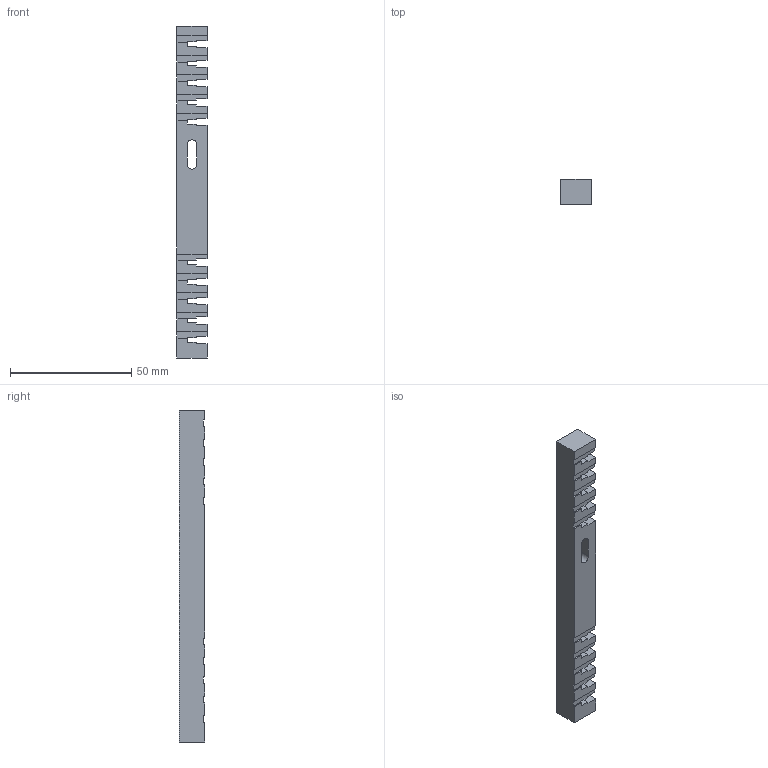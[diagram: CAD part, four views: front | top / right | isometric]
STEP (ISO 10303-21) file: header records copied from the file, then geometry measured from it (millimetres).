
FILE_DESCRIPTION(/* description */ (''),/* implementation_level */ '2;1');
FILE_NAME(/* name */ '05_common_direct_insert_rod_assembled.step',/* time_stamp */ '2026-11-14T21:40:01-08:00',/* author */ (''),/* organization */ (''),/* preprocessor_version */ 'ST-DEVELOPER v20.2',/* originating_system */ 'Autodesk Translation Framework v15.17.0.0',/* authorisation */ '');
FILE_SCHEMA (('AUTOMOTIVE_DESIGN { 1 0 10303 214 3 1 1 }'));
Length unit declared in the file: millimetre
Products named in the file (1): 2026-11-14-21-40-01-179
Bounding box: 12.4 x 10.4 x 137 mm (x, y, z)
Volume: 14590.1 mm3; surface area: 8095.9 mm2
Topology: 1 solids, 1 shells, 155 faces, 456 edges, 304 vertices
Faces by surface type: plane 153, cylinder 2
Entity records: 5091 total; most frequent: CARTESIAN_POINT 916, ORIENTED_EDGE 912, DIRECTION 772, EDGE_CURVE 456, LINE 452, VECTOR 452, VERTEX_POINT 304, AXIS2_PLACEMENT_3D 160
